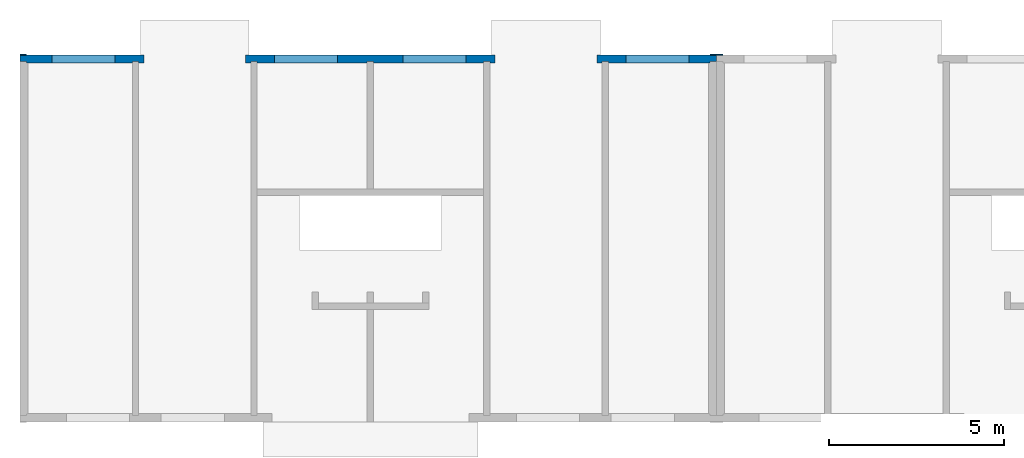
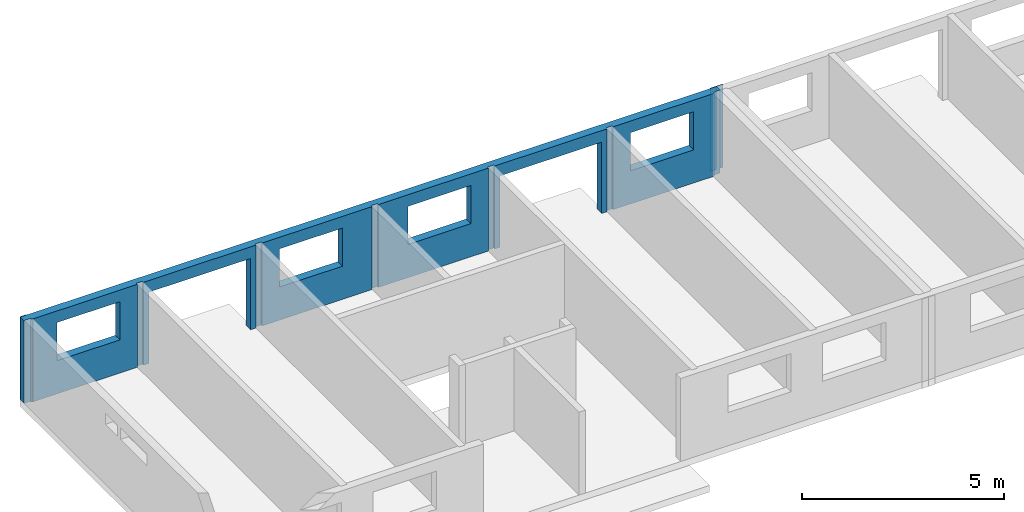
# One storey, part 5 of 9: 4 walls, 6 openings.
"""IFC2X3 building model written with IfcOpenShell, lengths in millimetres."""

from ifc_helpers import new_model, entity, si_unit, converted_unit, frame, frame_2d, origin, origin_with_axes, place, context, subcontext, project, spatial, polyline, rectangle, outline, extrude, material, layer, layer_set, layer_usage, element, save


model = new_model("IFC2X3")

# Units and contexts
model_context = context("Model", 3, precision=1e-05, world=origin())
plan_context = context("Plan", 3, precision=1e-05, world=origin())
body_context = subcontext(model_context, "Body", "Model", "MODEL_VIEW")
ifc_project = project(units=[si_unit("LENGTHUNIT", "METRE", prefix="MILLI"), converted_unit("PLANEANGLEUNIT", "DEGREE", entity("IfcPlaneAngleMeasure", 0.0174532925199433), si_unit("PLANEANGLEUNIT", "RADIAN"), dimensions=[0, 0, 0, 0, 0, 0, 0]), si_unit("AREAUNIT", "SQUARE_METRE"), si_unit("VOLUMEUNIT", "CUBIC_METRE")], contexts=[model_context, plan_context])

# Building, storey
building_placement = place(None, origin())
building = spatial("IfcBuilding", under=ifc_project, at=building_placement, Name="Bâtiment", CompositionType="ELEMENT")
storey_placement = place(building_placement, frame((0.0, 0.0, 2700.0), z_axis=(0.0, 0.0, 1.0), x_axis=(1.0, 0.0, 0.0)))
storey = spatial("IfcBuildingStorey", under=building, at=storey_placement, Name="r+1", CompositionType="ELEMENT", Elevation=2700.0)

# Wall, openings
ifc_material_1 = material(Name="moellons")
ifc_layer_1 = layer(ifc_material_1, 180.0)
ifc_material_2 = material(Name="briquettes")
ifc_layer_2 = layer(ifc_material_2, 40.0)
ifc_material_3 = material(Name="enduit platre")
ifc_layer_3 = layer(ifc_material_3, 10.0)
ifc_layer_set_1 = layer_set([ifc_layer_1, ifc_layer_2, ifc_layer_3])
ifc_layer_usage_1 = layer_usage(ifc_layer_set_1, "AXIS2", "POSITIVE", 0.0)
wall_1_placement = place(storey_placement, frame((19849.99999999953, 10470.07776548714, 0.0), z_axis=(0.0, 0.0, 1.0), x_axis=(-1.0, 9.163674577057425e-17, 0.0)))
wall_1 = element("IfcWallStandardCase", 1, at=wall_1_placement, inside=storey, material=ifc_layer_usage_1, context=body_context, shape_type="SweptSolid", body=[
    extrude(outline(polyline([(16649.99999999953, 179.9999999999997), (16469.99999999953, 179.9999999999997), (16469.99999999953, 229.9999999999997), (13269.99999999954, 229.9999999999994), (13269.99999999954, 179.9999999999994), (13089.99999999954, 179.9999999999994), (13089.99999999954, 229.9999999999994), (9954.999999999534, 230.0000000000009), (9954.999999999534, 180.0000000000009), (9774.999999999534, 180.0000000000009), (9774.999999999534, 230.0000000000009), (6640.000061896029, 230.0000000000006), (6640.000061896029, 180.0000000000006), (6460.000061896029, 180.0000000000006), (6460.000061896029, 230.0000000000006), (3259.999999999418, 230.0000000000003), (3259.999999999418, 180.0000000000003), (3079.999999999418, 180.0000000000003), (3079.999999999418, 230.0000000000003), (220.0, 230.0), (220.0, 220.0), (180.0, 220.0), (180.0, 180.0), (-1.649461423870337e-14, 180.0), (0.0, 0.0), (19849.99999999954, 0.0), (19849.99999999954, 180.0), (19669.99999999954, 180.0), (19669.99999999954, 220.0), (19629.99999999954, 220.0), (19629.99999999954, 230.0), (16649.99999999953, 229.9999999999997), (16649.99999999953, 179.9999999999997)])), origin_with_axes(), (0.0, 0.0, 1.0), 2500.0),
])
opening_1_placement = place(wall_1_placement, frame((17144.9999999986, -1.818989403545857e-12, 1000.0), z_axis=(0.0, 1.0, 0.0), x_axis=(0.0, 0.0, 1.0)))
element("IfcOpeningElement", 2, at=opening_1_placement, cuts=wall_1, Name="Baie de fenêtre", ObjectType="Opening", context=body_context, shape_type="SweptSolid", body=[
    extrude(rectangle(XDim=1150.0, YDim=1800.0, at=frame_2d((575.0, 900.0), x_axis=(1.0, 0.0))), origin_with_axes(), (0.0, 0.0, 1.0), 230.0),
])
opening_2_placement = place(wall_1_placement, frame((10794.99999999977, -1.818989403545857e-12, 1000.0), z_axis=(0.0, 1.0, 0.0), x_axis=(0.0, 0.0, 1.0)))
element("IfcOpeningElement", 3, at=opening_2_placement, cuts=wall_1, Name="Baie de fenêtre", ObjectType="Opening", context=body_context, shape_type="SweptSolid", body=[
    extrude(rectangle(XDim=1150.0, YDim=1799.999999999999, at=frame_2d((575.0, 899.9999999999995), x_axis=(1.0, 0.0))), origin_with_axes(), (0.0, 0.0, 1.0), 230.0),
])
opening_3_placement = place(wall_1_placement, frame((7134.999999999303, 0.0, 1000.0), z_axis=(0.0, 1.0, 0.0), x_axis=(0.0, 0.0, 1.0)))
element("IfcOpeningElement", 4, at=opening_3_placement, cuts=wall_1, Name="Baie de fenêtre", ObjectType="Opening", context=body_context, shape_type="SweptSolid", body=[
    extrude(rectangle(XDim=1150.0, YDim=1800.0, at=frame_2d((575.0, 900.0), x_axis=(1.0, 0.0))), origin_with_axes(), (0.0, 0.0, 1.0), 230.0),
])
opening_4_placement = place(wall_1_placement, frame((784.9999999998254, 0.0, 1000.0), z_axis=(0.0, 1.0, 0.0), x_axis=(0.0, 0.0, 1.0)))
element("IfcOpeningElement", 5, at=opening_4_placement, cuts=wall_1, Name="Baie de fenêtre", ObjectType="Opening", context=body_context, shape_type="SweptSolid", body=[
    extrude(rectangle(XDim=1150.0, YDim=1800.0, at=frame_2d((575.0, 900.0), x_axis=(1.0, 0.0))), origin_with_axes(), (0.0, 0.0, 1.0), 230.0),
])
opening_5_placement = place(wall_1_placement, frame((13419.62981094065, -1.818989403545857e-12, 0.0), z_axis=(0.0, 1.0, 0.0), x_axis=(0.0, 0.0, 1.0)))
element("IfcOpeningElement", 6, at=opening_5_placement, cuts=wall_1, Name="Baie de porte", ObjectType="Opening", context=body_context, shape_type="SweptSolid", body=[
    extrude(rectangle(XDim=2150.0, YDim=2900.0, at=frame_2d((1075.0, 1450.0), x_axis=(1.0, 0.0))), origin_with_axes(), (0.0, 0.0, 1.0), 230.0),
])
opening_6_placement = place(wall_1_placement, frame((3410.031276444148, 0.0, 0.0), z_axis=(0.0, 1.0, 0.0), x_axis=(0.0, 0.0, 1.0)))
element("IfcOpeningElement", 7, at=opening_6_placement, cuts=wall_1, Name="Baie de porte", ObjectType="Opening", context=body_context, shape_type="SweptSolid", body=[
    extrude(rectangle(XDim=2150.0, YDim=2900.0, at=frame_2d((1075.0, 1450.0), x_axis=(1.0, 0.0))), origin_with_axes(), (0.0, 0.0, 1.0), 230.0),
])

# Walls
ifc_material_4 = material(Name="moellons")
ifc_layer_4 = layer(ifc_material_4, 19.99999999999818)
ifc_layer_set_2 = layer_set([ifc_layer_4])
ifc_layer_usage_2 = layer_usage(ifc_layer_set_2, "AXIS2", "POSITIVE", 0.0)
wall_2_placement = place(storey_placement, frame((-3.636754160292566e-12, 10490.07776548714, 0.0), z_axis=(0.0, 0.0, 1.0), x_axis=(1.0, 0.0, 0.0)))
element("IfcWallStandardCase", 8, at=wall_2_placement, inside=storey, material=ifc_layer_usage_2, context=body_context, shape_type="SweptSolid", body=[
    extrude(rectangle(XDim=180.0, YDim=19.99999999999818, at=frame_2d((90.0, 9.99999999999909), x_axis=(1.0, 0.0))), frame((-1.2246467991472e-15, -19.99999999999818, 0.0), z_axis=(0.0, 0.0, 1.0), x_axis=(1.0, 0.0, 0.0)), (0.0, 0.0, 1.0), 2500.0),
])
ifc_material_5 = material(Name="moellons")
ifc_layer_5 = layer(ifc_material_5, 20.0)
ifc_layer_set_3 = layer_set([ifc_layer_5])
ifc_layer_usage_3 = layer_usage(ifc_layer_set_3, "AXIS2", "POSITIVE", 0.0)
wall_3_placement = place(storey_placement, frame((19849.99999999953, 10490.07776548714, 0.0), z_axis=(0.0, 0.0, 1.0), x_axis=(1.0, 0.0, 0.0)))
element("IfcWallStandardCase", 9, at=wall_3_placement, inside=storey, material=ifc_layer_usage_3, context=body_context, shape_type="SweptSolid", body=[
    extrude(rectangle(XDim=180.0, YDim=20.0, at=frame_2d((90.0, 10.0), x_axis=(1.0, 0.0))), frame((0.0, -20.0, 0.0), z_axis=(0.0, 0.0, 1.0), x_axis=(1.0, 0.0, 0.0)), (0.0, 0.0, 1.0), 2500.0),
])
ifc_material_6 = material(Name="moellons")
ifc_layer_6 = layer(ifc_material_6, 20.00000000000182)
ifc_layer_set_4 = layer_set([ifc_layer_6])
ifc_layer_usage_4 = layer_usage(ifc_layer_set_4, "AXIS2", "POSITIVE", 0.0)
wall_4_placement = place(storey_placement, frame((19849.99999999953, 10470.07776548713, 0.0), z_axis=(0.0, 0.0, 1.0), x_axis=(-1.0, 0.0, 0.0)))
element("IfcWallStandardCase", 10, at=wall_4_placement, inside=storey, material=ifc_layer_usage_4, context=body_context, shape_type="SweptSolid", body=[
    extrude(rectangle(XDim=180.0, YDim=20.00000000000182, at=frame_2d((90.0, 10.00000000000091), x_axis=(1.0, 0.0))), frame((0.0, -20.00000000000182, 0.0), z_axis=(0.0, 0.0, 1.0), x_axis=(1.0, 0.0, 0.0)), (0.0, 0.0, 1.0), 2500.0),
])

save(model, "model.ifc")
